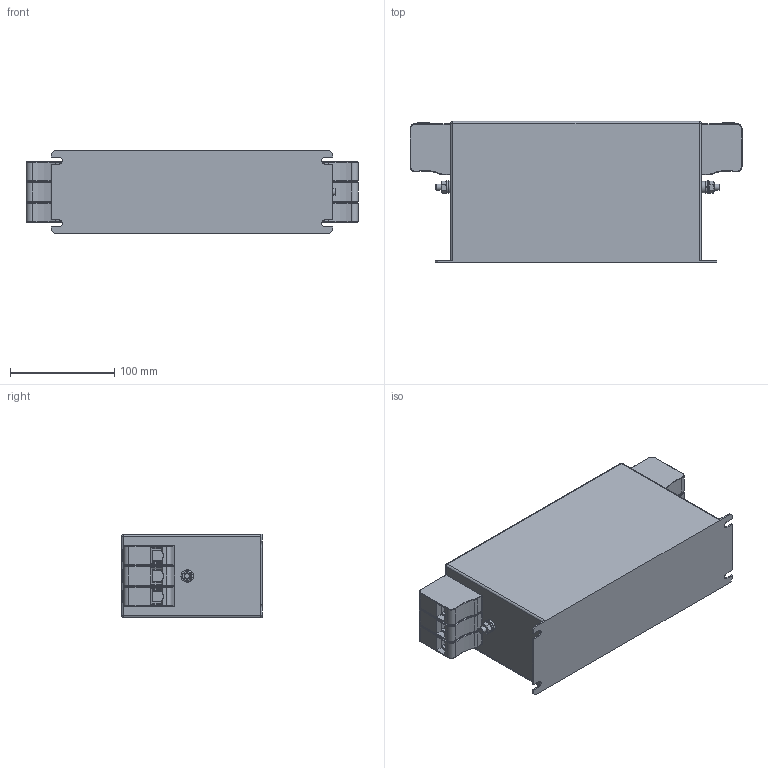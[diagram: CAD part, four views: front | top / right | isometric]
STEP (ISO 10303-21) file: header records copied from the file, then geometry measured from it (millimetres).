
FILE_DESCRIPTION((''),'2;1');
FILE_NAME('L:\INVENTOR_Projektedaten\HousingDesign\FN3258-75-34.stp','2013-03-25T11:30:00',('Samuel.Meier'),(''),'Autodesk Inventor 2013','Autodesk Inventor 2013','');
FILE_SCHEMA(('AUTOMOTIVE_DESIGN { 1 0 10303 214 1 1 1 1 }'));
Length unit declared in the file: millimetre
Products named in the file (1): FN3258-75-34
Bounding box: 318 x 135 x 80 mm (x, y, z)
Volume: 2785634.3 mm3; surface area: 164506.2 mm2
Topology: 1 solids, 1 shells, 612 faces, 1480 edges, 873 vertices
Faces by surface type: plane 237, cylinder 214, torus 66, bspline 60, sphere 28, cone 7
Full cylindrical faces by diameter (mm): 6 x3, 6.4 x1, 7 x6, 11.05 x2, 11.6 x6, 12 x2
Entity records: 19173 total; most frequent: CARTESIAN_POINT 4587, DIRECTION 3000, ORIENTED_EDGE 2800, EDGE_CURVE 1400, AXIS2_PLACEMENT_3D 1143, VERTEX_POINT 868, VECTOR 714, LINE 714
